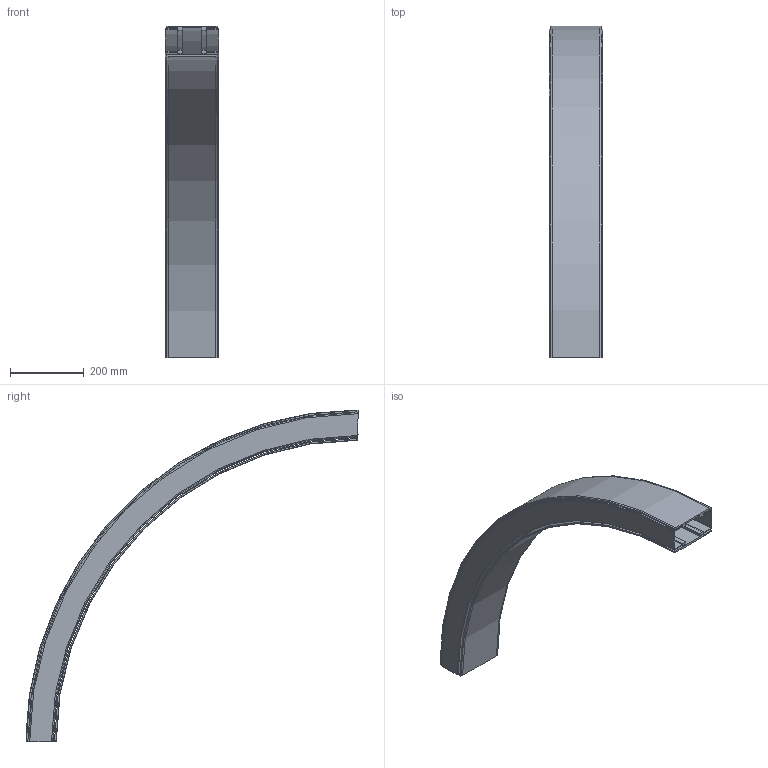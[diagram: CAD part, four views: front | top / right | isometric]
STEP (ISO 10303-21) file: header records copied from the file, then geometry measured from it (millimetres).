
FILE_DESCRIPTION((''),'2;1');
FILE_NAME('C:\Vault Klient\Projekt\Koncept konstruktion\Serie 540 Balk\540-5690_DOWN.stp','2010-11-26T10:14:53',('Mathias'),(''),'Autodesk Inventor 2011','Autodesk Inventor 2011','');
FILE_SCHEMA(('AUTOMOTIVE_DESIGN { 1 0 10303 214 1 1 1 1 }'));
Length unit declared in the file: millimetre
Products named in the file (1): 540-5690_DOWN
Bounding box: 146 x 899.5 x 899.5 mm (x, y, z)
Volume: 3096137.3 mm3; surface area: 1603977.1 mm2
Topology: 2 solids, 2 shells, 87 faces, 234 edges, 156 vertices
Faces by surface type: plane 38, cylinder 25, bspline 14, cone 6, torus 4
Entity records: 3221 total; most frequent: CARTESIAN_POINT 983, ORIENTED_EDGE 468, DIRECTION 428, EDGE_CURVE 234, VERTEX_POINT 156, AXIS2_PLACEMENT_3D 148, VECTOR 132, LINE 132
